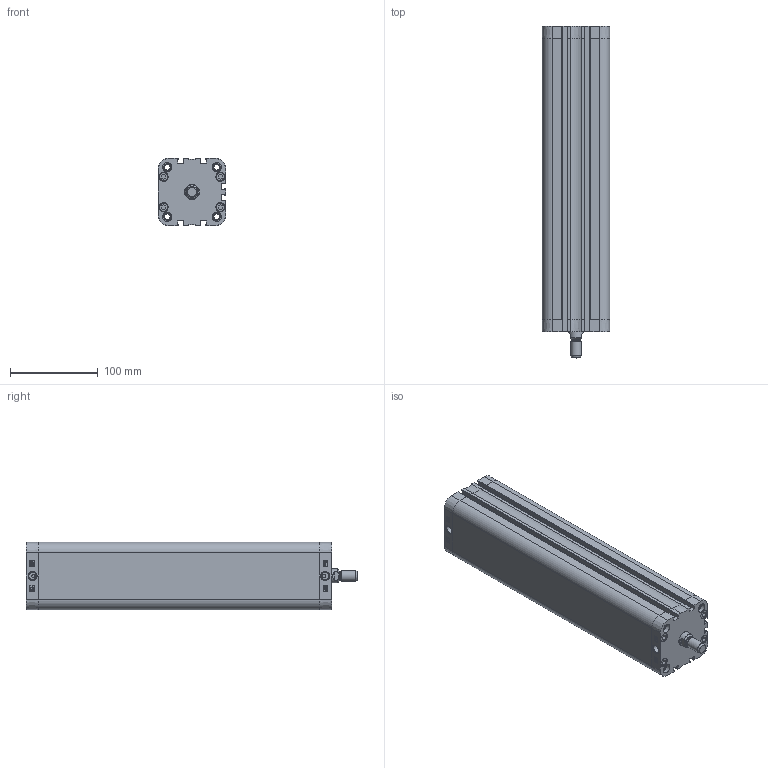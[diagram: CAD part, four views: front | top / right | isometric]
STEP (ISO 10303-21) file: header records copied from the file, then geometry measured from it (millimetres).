
FILE_DESCRIPTION((''),'2;1');
FILE_NAME('T:\Archivio Inventor\- CATALOGHI 2012\SERIE P - NUOVA\PDM\PDM063\PDM063.---.GS.M\PDM063.300.GS.M.stp','2013-02-04T09:33:08',('Administrator'),(''),'Autodesk Inventor 2012','Autodesk Inventor 2012','');
FILE_SCHEMA(('CONFIG_CONTROL_DESIGN'));
Length unit declared in the file: millimetre
Products named in the file (1): PDM063.300.GS.M
Bounding box: 77 x 379 x 77 mm (x, y, z)
Volume: 730896.8 mm3; surface area: 289336.3 mm2
Topology: 1 solids, 5 shells, 824 faces, 1993 edges, 1252 vertices
Faces by surface type: plane 346, bspline 218, cylinder 142, torus 55, cone 45, sphere 18
Full cylindrical faces by diameter (mm): 4 x2, 6.3 x4, 6.647 x8, 8.047 x4, 8.566 x2, 9.8 x8, 10 x1, 10.3 x8, 10.5 x8, 12 x2, 16 x1, 16.5 x1, 63 x1, 65.4 x1, 65.6 x1
Entity records: 27370 total; most frequent: CARTESIAN_POINT 9124, ORIENTED_EDGE 3744, DIRECTION 3031, EDGE_CURVE 1872, VERTEX_POINT 1231, AXIS2_PLACEMENT_3D 1026, EDGE_LOOP 1003, VECTOR 979
